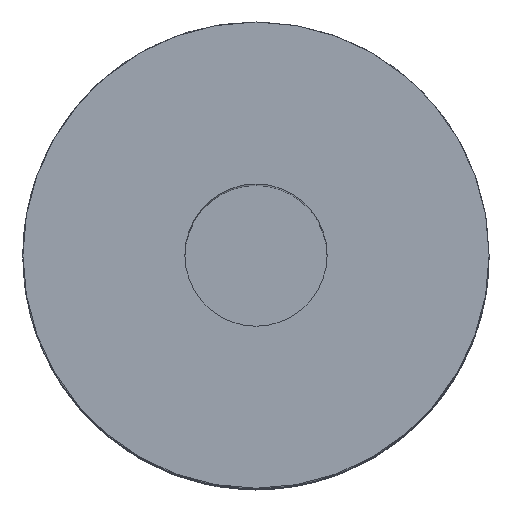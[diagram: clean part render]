
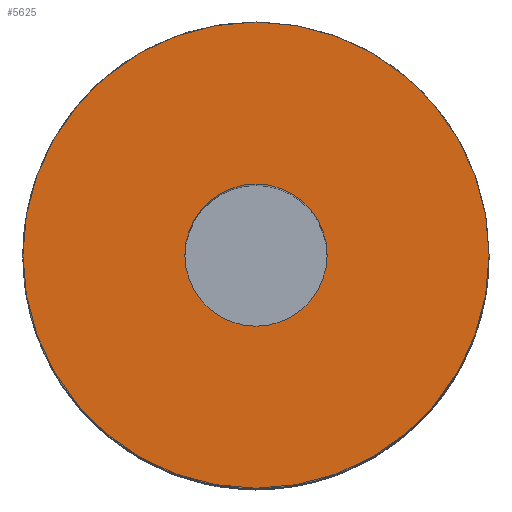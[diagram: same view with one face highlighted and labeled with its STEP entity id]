
A CAD part, top view. The second image highlights one B-rep face of the part: STEP entity #5625.
In plain terms, the highlighted planar face has unit normal (0, 0, 1).
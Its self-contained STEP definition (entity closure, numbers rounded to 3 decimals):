
#3420 = CYLINDRICAL_SURFACE('',#3421,10.);
#3421 = AXIS2_PLACEMENT_3D('',#3422,#3423,#3424);
#3422 = CARTESIAN_POINT('',(0.,0.,232.));
#3423 = DIRECTION('',(-0.,-0.,-1.));
#3424 = DIRECTION('',(1.,0.,0.));
#5571 = VERTEX_POINT('',#5572);
#5572 = CARTESIAN_POINT('',(10.,0.,276.));
#5593 = EDGE_CURVE('',#5571,#5571,#5594,.T.);
#5594 = SURFACE_CURVE('',#5595,(#5600,#5607),.PCURVE_S1.);
#5595 = CIRCLE('',#5596,10.);
#5596 = AXIS2_PLACEMENT_3D('',#5597,#5598,#5599);
#5597 = CARTESIAN_POINT('',(0.,0.,276.));
#5598 = DIRECTION('',(0.,0.,1.));
#5599 = DIRECTION('',(1.,0.,0.));
#5600 = PCURVE('',#3420,#5601);
#5601 = DEFINITIONAL_REPRESENTATION('',(#5602),#5606);
#5602 = LINE('',#5603,#5604);
#5603 = CARTESIAN_POINT('',(-0.,-44.));
#5604 = VECTOR('',#5605,1.);
#5605 = DIRECTION('',(-1.,0.));
#5606 = ( GEOMETRIC_REPRESENTATION_CONTEXT(2) 
PARAMETRIC_REPRESENTATION_CONTEXT() REPRESENTATION_CONTEXT('2D SPACE',''
  ) );
#5607 = PCURVE('',#5608,#5613);
#5608 = PLANE('',#5609);
#5609 = AXIS2_PLACEMENT_3D('',#5610,#5611,#5612);
#5610 = CARTESIAN_POINT('',(0.,0.,276.)
  );
#5611 = DIRECTION('',(0.,0.,1.));
#5612 = DIRECTION('',(1.,0.,-0.));
#5613 = DEFINITIONAL_REPRESENTATION('',(#5614),#5618);
#5614 = CIRCLE('',#5615,10.);
#5615 = AXIS2_PLACEMENT_2D('',#5616,#5617);
#5616 = CARTESIAN_POINT('',(0.,0.));
#5617 = DIRECTION('',(1.,0.));
#5618 = ( GEOMETRIC_REPRESENTATION_CONTEXT(2) 
PARAMETRIC_REPRESENTATION_CONTEXT() REPRESENTATION_CONTEXT('2D SPACE',''
  ) );
#5625 = ADVANCED_FACE('',(#5626,#5629),#5608,.T.);
#5626 = FACE_BOUND('',#5627,.T.);
#5627 = EDGE_LOOP('',(#5628));
#5628 = ORIENTED_EDGE('',*,*,#5593,.T.);
#5629 = FACE_BOUND('',#5630,.T.);
#5630 = EDGE_LOOP('',(#5631));
#5631 = ORIENTED_EDGE('',*,*,#5632,.F.);
#5632 = EDGE_CURVE('',#5633,#5633,#5635,.T.);
#5633 = VERTEX_POINT('',#5634);
#5634 = CARTESIAN_POINT('',(3.05,0.,276.));
#5635 = SURFACE_CURVE('',#5636,(#5641,#5648),.PCURVE_S1.);
#5636 = CIRCLE('',#5637,3.05);
#5637 = AXIS2_PLACEMENT_3D('',#5638,#5639,#5640);
#5638 = CARTESIAN_POINT('',(0.,0.,276.));
#5639 = DIRECTION('',(0.,0.,1.));
#5640 = DIRECTION('',(1.,0.,0.));
#5641 = PCURVE('',#5608,#5642);
#5642 = DEFINITIONAL_REPRESENTATION('',(#5643),#5647);
#5643 = CIRCLE('',#5644,3.05);
#5644 = AXIS2_PLACEMENT_2D('',#5645,#5646);
#5645 = CARTESIAN_POINT('',(0.,0.));
#5646 = DIRECTION('',(1.,0.));
#5647 = ( GEOMETRIC_REPRESENTATION_CONTEXT(2) 
PARAMETRIC_REPRESENTATION_CONTEXT() REPRESENTATION_CONTEXT('2D SPACE',''
  ) );
#5648 = PCURVE('',#5649,#5654);
#5649 = CYLINDRICAL_SURFACE('',#5650,3.05);
#5650 = AXIS2_PLACEMENT_3D('',#5651,#5652,#5653);
#5651 = CARTESIAN_POINT('',(0.,0.,242.));
#5652 = DIRECTION('',(-0.,-0.,-1.));
#5653 = DIRECTION('',(1.,0.,0.));
#5654 = DEFINITIONAL_REPRESENTATION('',(#5655),#5659);
#5655 = LINE('',#5656,#5657);
#5656 = CARTESIAN_POINT('',(-0.,-34.));
#5657 = VECTOR('',#5658,1.);
#5658 = DIRECTION('',(-1.,0.));
#5659 = ( GEOMETRIC_REPRESENTATION_CONTEXT(2) 
PARAMETRIC_REPRESENTATION_CONTEXT() REPRESENTATION_CONTEXT('2D SPACE',''
  ) );
